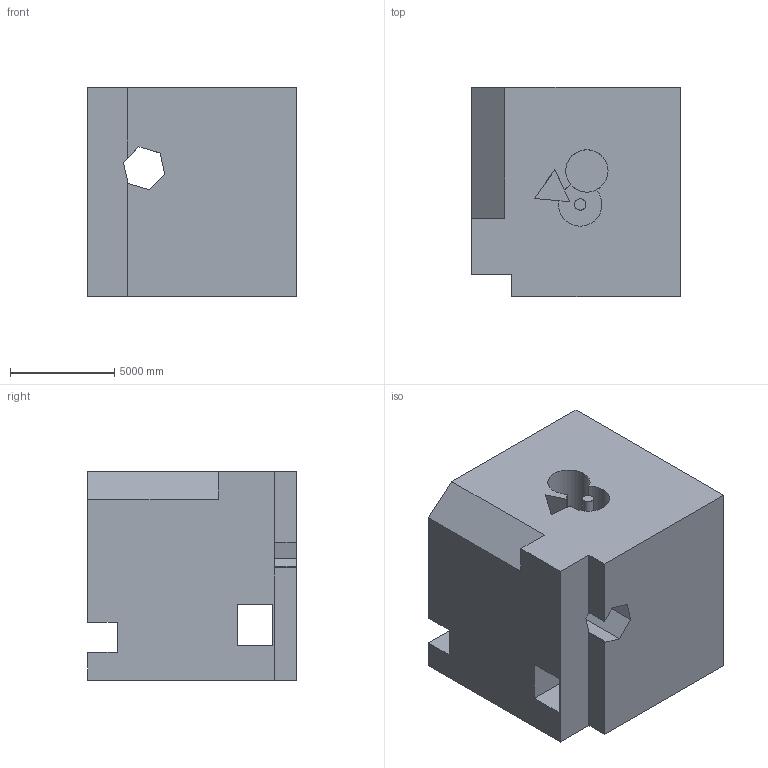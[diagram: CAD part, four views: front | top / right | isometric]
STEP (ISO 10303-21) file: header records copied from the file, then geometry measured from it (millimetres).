
FILE_DESCRIPTION (( 'STEP AP203' ), '1' );
FILE_NAME ('1766.STEP', '2022-08-25T15:41:47', ( 'user' ), ( '' ), 'SwSTEP 2.0', 'SolidWorks 2021', '' );
FILE_SCHEMA (( 'CONFIG_CONTROL_DESIGN' ));
Length unit declared in the file: centimetre
Products named in the file (1): 1766
Bounding box: 10000 x 10000 x 10000 mm (x, y, z)
Volume: 861638606284.8 mm3; surface area: 806965238.4 mm2
Topology: 1 solids, 1 shells, 41 faces, 120 edges, 80 vertices
Faces by surface type: plane 33, cylinder 8
Entity records: 1441 total; most frequent: CARTESIAN_POINT 242, ORIENTED_EDGE 240, DIRECTION 222, EDGE_CURVE 120, VECTOR 102, LINE 102, VERTEX_POINT 80, AXIS2_PLACEMENT_3D 60
